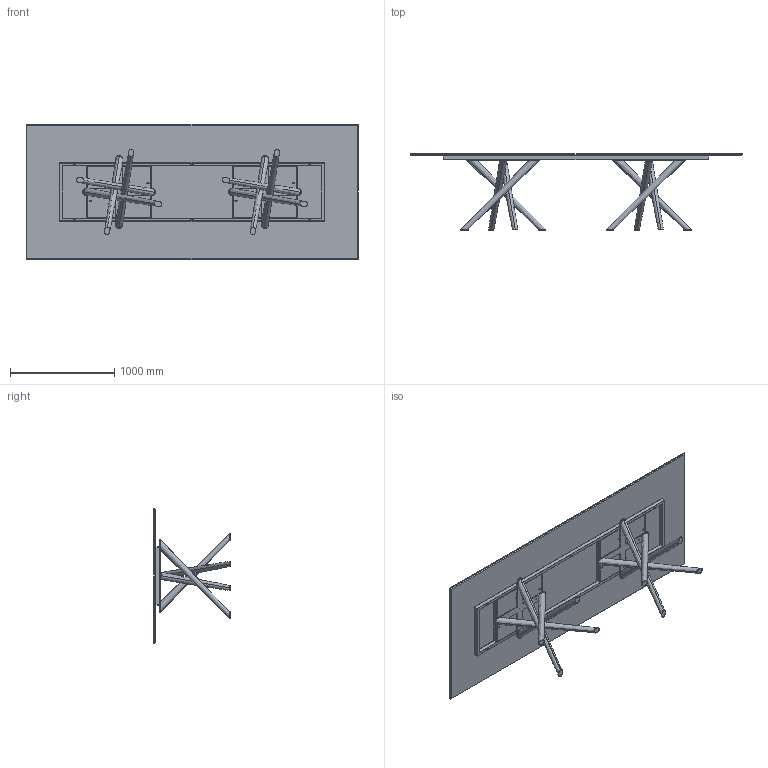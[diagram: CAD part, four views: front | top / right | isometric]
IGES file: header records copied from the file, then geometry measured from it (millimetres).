
Start section: SolidWorks IGES file using analytic representation for surfaces
Global section: file name: Y:\eforma\TECNICO\SOLIDWORKS\E-FORMA\1-TAVOLI\BALY\02 parts\BA27C.IGS; native system: SolidWorks 2022; preprocessor: SolidWorks 2022; author: eforma.tech; date: 240808.082449; units: millimetre
Bounding box: 3190 x 731 x 1300 mm (x, y, z)
Volume: 75423206.8 mm3; surface area: 23079493.2 mm2
Topology: 23 solids, 23 shells, 574 faces, 1410 edges, 876 vertices
Faces by surface type: plane 284, revolution 274, bspline 16
